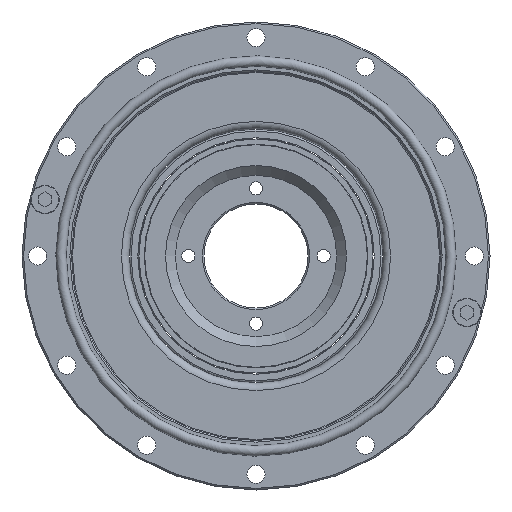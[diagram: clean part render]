
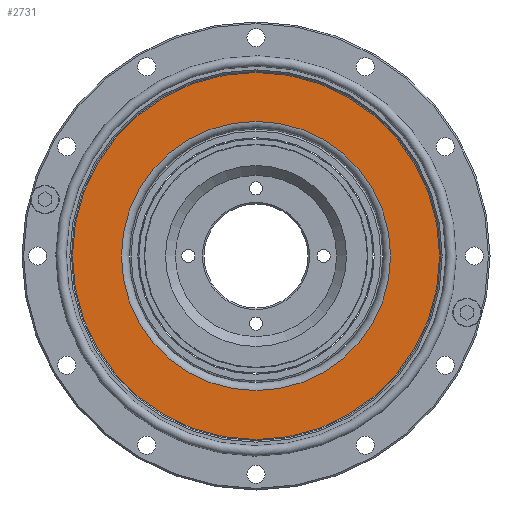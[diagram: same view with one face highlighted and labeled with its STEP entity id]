
A CAD part, left-side view. The second image highlights one B-rep face of the part: STEP entity #2731.
In plain terms, the highlighted planar face has unit normal (-1, 0, 0).
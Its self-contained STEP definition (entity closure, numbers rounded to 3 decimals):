
#226 = EDGE_LOOP ( 'NONE', ( #4834 ) ) ;
#330 = DIRECTION ( 'NONE',  ( 1., 0., 0. ) ) ;
#467 = VERTEX_POINT ( 'NONE', #7448 ) ;
#1235 = FACE_BOUND ( 'NONE', #226, .T. ) ;
#1459 = DIRECTION ( 'NONE',  ( -1., 0., 0. ) ) ;
#1554 = PLANE ( 'NONE',  #7393 ) ;
#2694 = VERTEX_POINT ( 'NONE', #7853 ) ;
#2731 = ADVANCED_FACE ( 'NONE', ( #1235, #4557 ), #1554, .F. ) ;
#3004 = CARTESIAN_POINT ( 'NONE',  ( -0.301, 0., 0. ) ) ;
#3633 = DIRECTION ( 'NONE',  ( 0., 0., 1. ) ) ;
#3759 = AXIS2_PLACEMENT_3D ( 'NONE', #3004, #7377, #3633 ) ;
#4283 = EDGE_CURVE ( 'NONE', #2694, #2694, #5010, .T. ) ;
#4557 = FACE_OUTER_BOUND ( 'NONE', #5734, .T. ) ;
#4695 = DIRECTION ( 'NONE',  ( 0., 0., -1. ) ) ;
#4834 = ORIENTED_EDGE ( 'NONE', *, *, #4283, .F. ) ;
#5010 = CIRCLE ( 'NONE', #6361, 25.884 ) ;
#5189 = CARTESIAN_POINT ( 'NONE',  ( -0.301, 0., 0. ) ) ;
#5734 = EDGE_LOOP ( 'NONE', ( #7046 ) ) ;
#5827 = DIRECTION ( 'NONE',  ( 0., 0., 1. ) ) ;
#6361 = AXIS2_PLACEMENT_3D ( 'NONE', #5189, #1459, #5827 ) ;
#7046 = ORIENTED_EDGE ( 'NONE', *, *, #7911, .T. ) ;
#7168 = CARTESIAN_POINT ( 'NONE',  ( -0.301, 0., 0. ) ) ;
#7189 = CIRCLE ( 'NONE', #3759, 35.3 ) ;
#7377 = DIRECTION ( 'NONE',  ( -1., 0., 0. ) ) ;
#7393 = AXIS2_PLACEMENT_3D ( 'NONE', #7168, #330, #4695 ) ;
#7448 = CARTESIAN_POINT ( 'NONE',  ( -0.301, 0., 35.3 ) ) ;
#7853 = CARTESIAN_POINT ( 'NONE',  ( -0.301, 0., 25.884 ) ) ;
#7911 = EDGE_CURVE ( 'NONE', #467, #467, #7189, .T. ) ;
